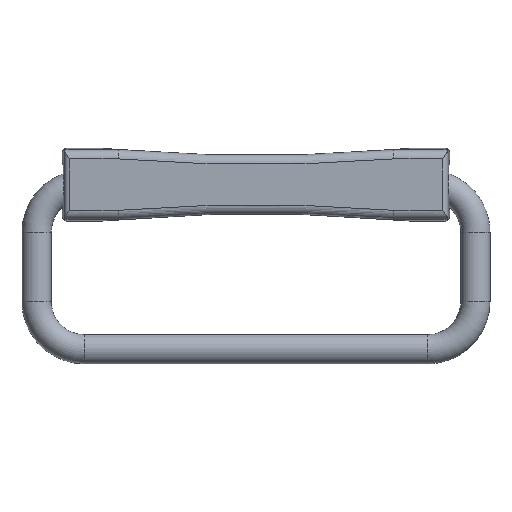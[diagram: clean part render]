
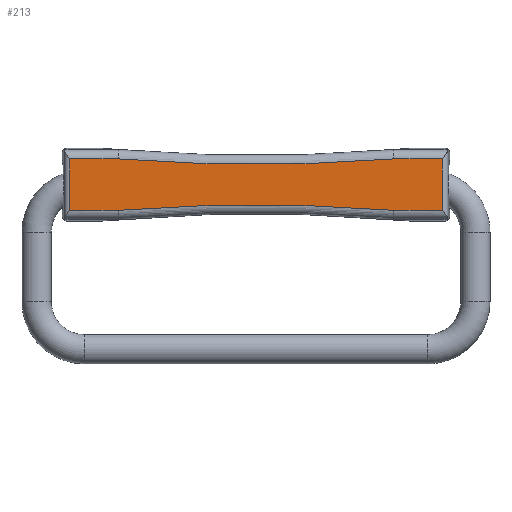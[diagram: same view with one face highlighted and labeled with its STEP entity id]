
A CAD part, top view. The second image highlights one B-rep face of the part: STEP entity #213.
In plain terms, the highlighted planar face has unit normal (0, 0, 1).
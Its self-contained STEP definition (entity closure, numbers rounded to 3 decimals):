
#213 = ADVANCED_FACE( '', ( #324 ), #325, .T. );
#324 = FACE_OUTER_BOUND( '', #456, .T. );
#325 = PLANE( '', #457 );
#456 = EDGE_LOOP( '', ( #853, #854, #855, #856, #857, #858, #859, #860 ) );
#457 = AXIS2_PLACEMENT_3D( '', #861, #862, #863 );
#853 = ORIENTED_EDGE( '', *, *, #1039, .F. );
#854 = ORIENTED_EDGE( '', *, *, #972, .T. );
#855 = ORIENTED_EDGE( '', *, *, #1032, .T. );
#856 = ORIENTED_EDGE( '', *, *, #1044, .F. );
#857 = ORIENTED_EDGE( '', *, *, #965, .T. );
#858 = ORIENTED_EDGE( '', *, *, #1026, .F. );
#859 = ORIENTED_EDGE( '', *, *, #1045, .F. );
#860 = ORIENTED_EDGE( '', *, *, #976, .F. );
#861 = CARTESIAN_POINT( '', ( -51.5, -1.5, 16. ) );
#862 = DIRECTION( '', ( 0., 0., 1. ) );
#863 = DIRECTION( '', ( 1., 0., 0. ) );
#965 = EDGE_CURVE( '', #1135, #1132, #1136, .T. );
#972 = EDGE_CURVE( '', #1142, #1147, #1149, .T. );
#976 = EDGE_CURVE( '', #1155, #1157, #1158, .T. );
#1026 = EDGE_CURVE( '', #1232, #1132, #1234, .T. );
#1032 = EDGE_CURVE( '', #1147, #1241, #1243, .T. );
#1039 = EDGE_CURVE( '', #1142, #1155, #1251, .T. );
#1044 = EDGE_CURVE( '', #1135, #1241, #1256, .T. );
#1045 = EDGE_CURVE( '', #1157, #1232, #1257, .T. );
#1132 = VERTEX_POINT( '', #1469 );
#1135 = VERTEX_POINT( '', #1483 );
#1136 = LINE( '', #1484, #1485 );
#1142 = VERTEX_POINT( '', #1507 );
#1147 = VERTEX_POINT( '', #1524 );
#1149 = LINE( '', #1537, #1538 );
#1155 = VERTEX_POINT( '', #1547 );
#1157 = VERTEX_POINT( '', #1564 );
#1158 = CIRCLE( '', #1565, 465.75 );
#1232 = VERTEX_POINT( '', #1759 );
#1234 = LINE( '', #1772, #1773 );
#1241 = VERTEX_POINT( '', #1784 );
#1243 = LINE( '', #1801, #1802 );
#1251 = LINE( '', #1814, #1815 );
#1256 = CIRCLE( '', #1821, 465.75 );
#1257 = LINE( '', #1822, #1823 );
#1469 = CARTESIAN_POINT( '', ( -50.993, -2.973, 16. ) );
#1483 = CARTESIAN_POINT( '', ( -37.684, -2.973, 16. ) );
#1484 = CARTESIAN_POINT( '', ( 62.5, -2.973, 16. ) );
#1485 = VECTOR( '', #1896, 1000. );
#1507 = CARTESIAN_POINT( '', ( 50.993, -17.027, 16. ) );
#1524 = CARTESIAN_POINT( '', ( 50.993, -2.973, 16. ) );
#1537 = CARTESIAN_POINT( '', ( 50.993, -20., 16. ) );
#1538 = VECTOR( '', #1902, 1000. );
#1547 = CARTESIAN_POINT( '', ( 37.684, -17.027, 16. ) );
#1564 = CARTESIAN_POINT( '', ( -37.684, -17.027, 16. ) );
#1565 = AXIS2_PLACEMENT_3D( '', #1906, #1907, #1908 );
#1759 = CARTESIAN_POINT( '', ( -50.993, -17.027, 16. ) );
#1772 = CARTESIAN_POINT( '', ( -50.993, -20., 16. ) );
#1773 = VECTOR( '', #1977, 1000. );
#1784 = CARTESIAN_POINT( '', ( 37.684, -2.973, 16. ) );
#1801 = CARTESIAN_POINT( '', ( 62.5, -2.973, 16. ) );
#1802 = VECTOR( '', #1985, 1000. );
#1814 = CARTESIAN_POINT( '', ( 62.5, -17.027, 16. ) );
#1815 = VECTOR( '', #1999, 1000. );
#1821 = AXIS2_PLACEMENT_3D( '', #2010, #2011, #2012 );
#1822 = CARTESIAN_POINT( '', ( 62.5, -17.027, 16. ) );
#1823 = VECTOR( '', #2013, 1000. );
#1896 = DIRECTION( '', ( -1., 0., 0. ) );
#1902 = DIRECTION( '', ( 0., 1., 0. ) );
#1906 = CARTESIAN_POINT( '', ( 0., -481.25, 16. ) );
#1907 = DIRECTION( '', ( 0., 0., 1. ) );
#1908 = DIRECTION( '', ( 1., 0., 0. ) );
#1977 = DIRECTION( '', ( 0., 1., 0. ) );
#1985 = DIRECTION( '', ( -1., 0., 0. ) );
#1999 = DIRECTION( '', ( -1., 0., 0. ) );
#2010 = CARTESIAN_POINT( '', ( 0., 461.25, 16. ) );
#2011 = DIRECTION( '', ( 0., 0., 1. ) );
#2012 = DIRECTION( '', ( 1., 0., 0. ) );
#2013 = DIRECTION( '', ( -1., 0., 0. ) );
